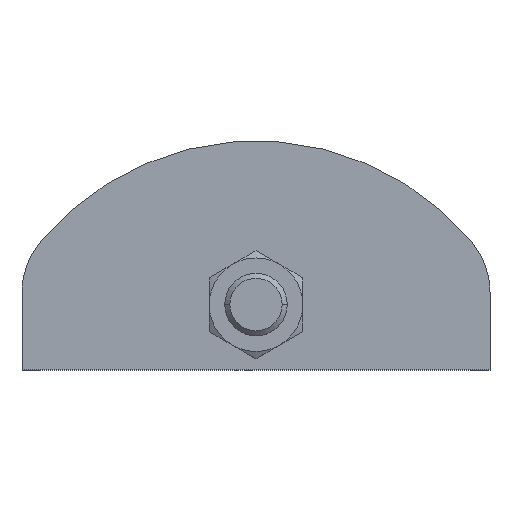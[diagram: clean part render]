
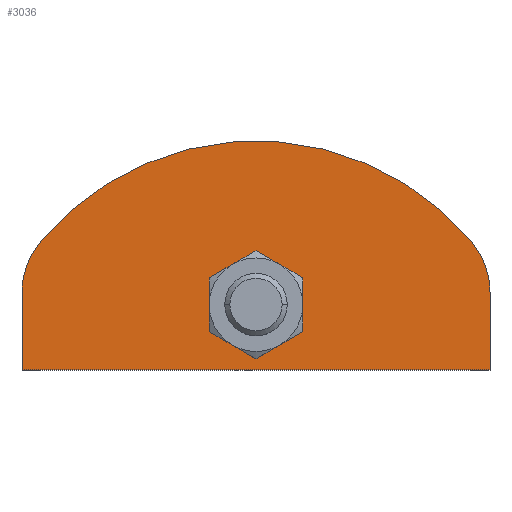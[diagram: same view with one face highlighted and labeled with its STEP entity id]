
A CAD part, top view. The second image highlights one B-rep face of the part: STEP entity #3036.
In plain terms, the highlighted planar face has unit normal (0, 0, 1).
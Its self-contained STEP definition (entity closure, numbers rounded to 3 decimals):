
#21 = DIRECTION ( 'NONE',  ( 1., 0., 0. ) ) ;
#39 = FACE_OUTER_BOUND ( 'NONE', #2253, .T. ) ;
#117 = DIRECTION ( 'NONE',  ( 1., 0., 0. ) ) ;
#141 = VERTEX_POINT ( 'NONE', #2998 ) ;
#159 = DIRECTION ( 'NONE',  ( 0., 0., 1. ) ) ;
#213 = CARTESIAN_POINT ( 'NONE',  ( -7.55, 5.04, 20. ) ) ;
#236 = CARTESIAN_POINT ( 'NONE',  ( 30., 7.46, 20. ) ) ;
#281 = ORIENTED_EDGE ( 'NONE', *, *, #3401, .T. ) ;
#307 = CARTESIAN_POINT ( 'NONE',  ( 45., 7.46, 20. ) ) ;
#379 = CARTESIAN_POINT ( 'NONE',  ( -30., 7.46, 20. ) ) ;
#409 = CARTESIAN_POINT ( 'NONE',  ( 41.538, 17.045, 20. ) ) ;
#540 = AXIS2_PLACEMENT_3D ( 'NONE', #562, #1314, #1307 ) ;
#562 = CARTESIAN_POINT ( 'NONE',  ( 0., 5.04, 20. ) ) ;
#621 = DIRECTION ( 'NONE',  ( 1., 0., 0. ) ) ;
#654 = EDGE_CURVE ( 'NONE', #141, #1081, #3195, .T. ) ;
#732 = VECTOR ( 'NONE', #21, 1000. ) ;
#739 = VERTEX_POINT ( 'NONE', #409 ) ;
#755 = DIRECTION ( 'NONE',  ( 1., 0., 0. ) ) ;
#796 = ORIENTED_EDGE ( 'NONE', *, *, #654, .T. ) ;
#923 = VERTEX_POINT ( 'NONE', #213 ) ;
#937 = DIRECTION ( 'NONE',  ( 0., 0., 1. ) ) ;
#1046 = EDGE_CURVE ( 'NONE', #923, #1845, #2183, .T. ) ;
#1056 = ORIENTED_EDGE ( 'NONE', *, *, #1899, .T. ) ;
#1079 = ORIENTED_EDGE ( 'NONE', *, *, #1917, .T. ) ;
#1081 = VERTEX_POINT ( 'NONE', #2920 ) ;
#1129 = EDGE_CURVE ( 'NONE', #2207, #141, #3028, .T. ) ;
#1254 = DIRECTION ( 'NONE',  ( 1., 0., 0. ) ) ;
#1277 = EDGE_CURVE ( 'NONE', #1845, #923, #1679, .T. ) ;
#1307 = DIRECTION ( 'NONE',  ( 1., 0., 0. ) ) ;
#1314 = DIRECTION ( 'NONE',  ( 0., 0., 1. ) ) ;
#1349 = VECTOR ( 'NONE', #3415, 1000. ) ;
#1382 = AXIS2_PLACEMENT_3D ( 'NONE', #2227, #3304, #621 ) ;
#1429 = CIRCLE ( 'NONE', #1903, 15. ) ;
#1435 = CIRCLE ( 'NONE', #1557, 15. ) ;
#1489 = VERTEX_POINT ( 'NONE', #307 ) ;
#1545 = CARTESIAN_POINT ( 'NONE',  ( 7.55, 5.04, 20. ) ) ;
#1557 = AXIS2_PLACEMENT_3D ( 'NONE', #236, #2621, #755 ) ;
#1663 = DIRECTION ( 'NONE',  ( 1., 0., 0. ) ) ;
#1679 = CIRCLE ( 'NONE', #2050, 7.55 ) ;
#1724 = ORIENTED_EDGE ( 'NONE', *, *, #1129, .T. ) ;
#1845 = VERTEX_POINT ( 'NONE', #1545 ) ;
#1899 = EDGE_CURVE ( 'NONE', #1489, #739, #1435, .T. ) ;
#1903 = AXIS2_PLACEMENT_3D ( 'NONE', #379, #3300, #1663 ) ;
#1917 = EDGE_CURVE ( 'NONE', #1081, #1489, #2951, .T. ) ;
#1951 = PLANE ( 'NONE',  #1382 ) ;
#2010 = VECTOR ( 'NONE', #2441, 1000. ) ;
#2042 = CARTESIAN_POINT ( 'NONE',  ( 0., 5.04, 20. ) ) ;
#2050 = AXIS2_PLACEMENT_3D ( 'NONE', #2042, #937, #117 ) ;
#2092 = CARTESIAN_POINT ( 'NONE',  ( -41.538, 17.045, 20. ) ) ;
#2113 = ORIENTED_EDGE ( 'NONE', *, *, #1277, .F. ) ;
#2164 = ORIENTED_EDGE ( 'NONE', *, *, #2355, .T. ) ;
#2183 = CIRCLE ( 'NONE', #540, 7.55 ) ;
#2207 = VERTEX_POINT ( 'NONE', #2747 ) ;
#2227 = CARTESIAN_POINT ( 'NONE',  ( 30., 7.46, 20. ) ) ;
#2253 = EDGE_LOOP ( 'NONE', ( #1079, #1056, #2164, #281, #1724, #796 ) ) ;
#2355 = EDGE_CURVE ( 'NONE', #739, #3291, #2788, .T. ) ;
#2430 = EDGE_LOOP ( 'NONE', ( #2113, #2699 ) ) ;
#2431 = FACE_BOUND ( 'NONE', #2430, .T. ) ;
#2441 = DIRECTION ( 'NONE',  ( 0., -1., 0. ) ) ;
#2603 = CARTESIAN_POINT ( 'NONE',  ( 0., -17.46, 20. ) ) ;
#2621 = DIRECTION ( 'NONE',  ( 0., 0., 1. ) ) ;
#2640 = CARTESIAN_POINT ( 'NONE',  ( 45., -7.46, 20. ) ) ;
#2699 = ORIENTED_EDGE ( 'NONE', *, *, #1046, .F. ) ;
#2747 = CARTESIAN_POINT ( 'NONE',  ( -45., 7.46, 20. ) ) ;
#2788 = CIRCLE ( 'NONE', #3352, 54. ) ;
#2920 = CARTESIAN_POINT ( 'NONE',  ( 45., -7.46, 20. ) ) ;
#2951 = LINE ( 'NONE', #2640, #1349 ) ;
#2998 = CARTESIAN_POINT ( 'NONE',  ( -45., -7.46, 20. ) ) ;
#3028 = LINE ( 'NONE', #3234, #2010 ) ;
#3036 = ADVANCED_FACE ( 'NONE', ( #2431, #39 ), #1951, .T. ) ;
#3195 = LINE ( 'NONE', #3244, #732 ) ;
#3234 = CARTESIAN_POINT ( 'NONE',  ( -45., 7.46, 20. ) ) ;
#3244 = CARTESIAN_POINT ( 'NONE',  ( -45., -7.46, 20. ) ) ;
#3291 = VERTEX_POINT ( 'NONE', #2092 ) ;
#3300 = DIRECTION ( 'NONE',  ( 0., 0., 1. ) ) ;
#3304 = DIRECTION ( 'NONE',  ( 0., 0., 1. ) ) ;
#3352 = AXIS2_PLACEMENT_3D ( 'NONE', #2603, #159, #1254 ) ;
#3401 = EDGE_CURVE ( 'NONE', #3291, #2207, #1429, .T. ) ;
#3415 = DIRECTION ( 'NONE',  ( 0., 1., 0. ) ) ;
